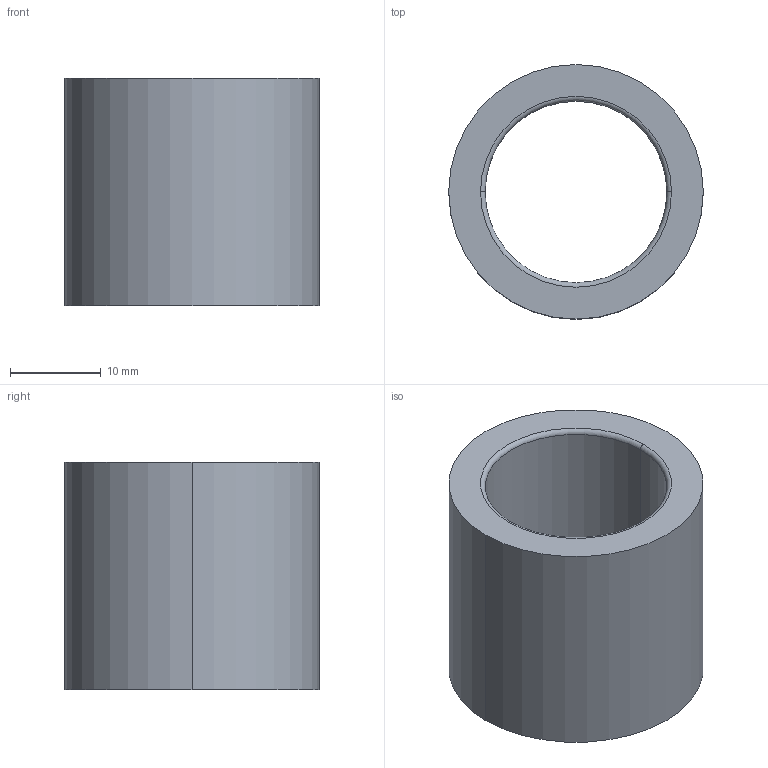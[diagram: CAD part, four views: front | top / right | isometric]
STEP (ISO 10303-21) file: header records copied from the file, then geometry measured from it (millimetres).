
FILE_DESCRIPTION(/* description */ (''),/* implementation_level */ '2;1');
FILE_NAME(/* name */ '3d_sgbz20-25_00303_r00.stp',/* time_stamp */ '2011-01-10T14:11:12+09:00',/* author */ ('MISUMI'),/* organization */ (''),/* preprocessor_version */ 'ST-DEVELOPER v11',/* originating_system */ 'UGS - NX 5.0',/* authorisation */ '');
FILE_SCHEMA (('CONFIG_CONTROL_DESIGN'));
Length unit declared in the file: millimetre
Products named in the file (1): 3d_sgbz20-25_00303_r00
Bounding box: 28 x 28 x 25 mm (x, y, z)
Volume: 7533 mm3; surface area: 4346.4 mm2
Topology: 1 solids, 1 shells, 10 faces, 20 edges, 12 vertices
Faces by surface type: cylinder 4, torus 4, plane 2
Entity records: 358 total; most frequent: DIRECTION 58, CARTESIAN_POINT 43, ORIENTED_EDGE 40, AXIS2_PLACEMENT_3D 27, EDGE_CURVE 20, CIRCLE 16, EDGE_LOOP 12, VERTEX_POINT 12
